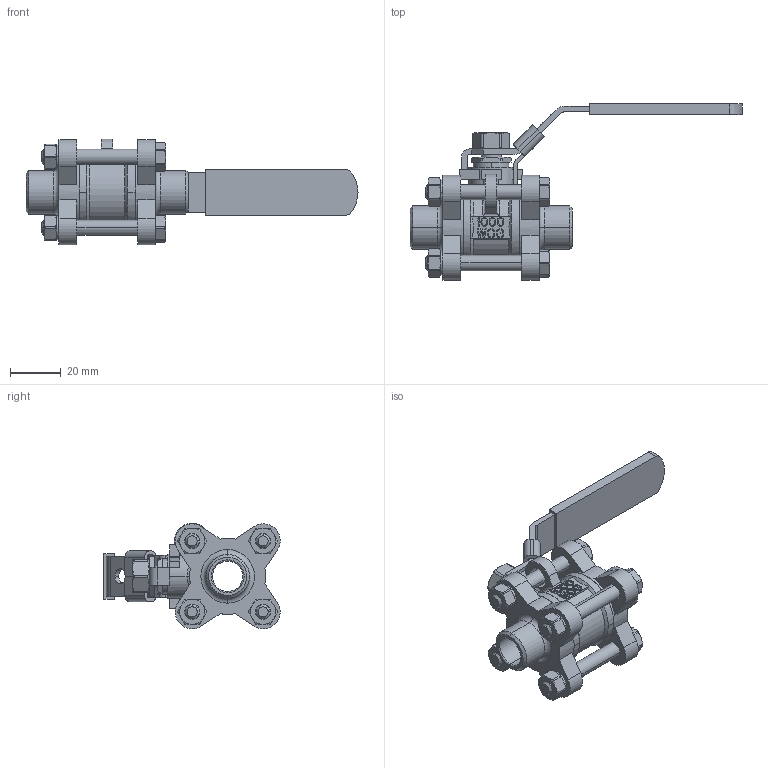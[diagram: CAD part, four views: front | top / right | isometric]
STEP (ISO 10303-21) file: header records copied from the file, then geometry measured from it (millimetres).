
FILE_DESCRIPTION((''),'2;1');
FILE_NAME('10C310_ASM','2020-08-24T',('Administrator'),(''),'CREO PARAMETRIC BY PTC INC, 2016260','CREO PARAMETRIC BY PTC INC, 2016260','');
FILE_SCHEMA(('CONFIG_CONTROL_DESIGN'));
Length unit declared in the file: millimetre
Products named in the file (15): 10T; ZHITUIDIANPIAN; 10FAGAN; 10QIU; 10FAZUO; 10G; M6X45LUOGAN; M6TANDIAN; M6LUOMU; 15TIANLIAO; 15YATAO; 15SHOUBING; M8LUOMU; 10SUOKOU; 10C310_ASM
Assembly tree (25 placements, depth 2):
  10C310_ASM
    10T
    ZHITUIDIANPIAN
    10FAGAN
    10QIU
    10FAZUO  x2
    10G  x2
    M6X45LUOGAN  x4
    M6TANDIAN  x4
    M6LUOMU  x4
    15TIANLIAO
    15YATAO
    15SHOUBING
    M8LUOMU
    10SUOKOU
Bounding box: 130.86 x 69.5 x 41.66 mm (x, y, z)
Volume: 49134.9 mm3; surface area: 36817 mm2
Topology: 25 solids, 25 shells, 1033 faces, 2692 edges, 1741 vertices
Faces by surface type: plane 658, cylinder 225, cone 110, torus 16, bspline 12, sphere 8, extrusion 4
Entity records: 26695 total; most frequent: CARTESIAN_POINT 6161, ORIENTED_EDGE 4312, DIRECTION 4007, EDGE_CURVE 2156, VECTOR 1625, LINE 1621, VERTEX_POINT 1411, AXIS2_PLACEMENT_3D 1191
